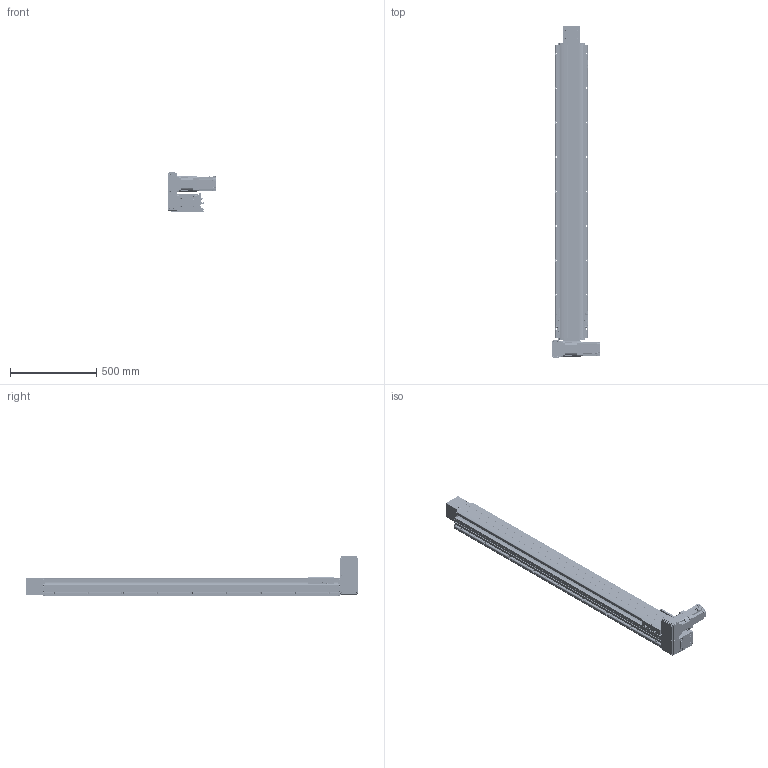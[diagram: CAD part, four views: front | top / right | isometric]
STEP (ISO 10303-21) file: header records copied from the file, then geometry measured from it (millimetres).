
FILE_DESCRIPTION(/* description */ (''),/* implementation_level */ '2;1');
FILE_NAME(/* name */ '\\192.168.0.160\disk1\HAN SHIN Master\B-설계부문\C-표준\B-2024년\BC02-표준도면\+로봇 개선표준도면\홈페이지 표준 도면\홈페이지 최종 작업 폴더\3D\HSB\HSB160\UL\HSB160-UL7G-N-1500-R.stp',/* time_stamp */ '2025-06-19T10:07:52+09:00',/* author */ ('user'),/* organization */ (''),/* preprocessor_version */ 'ST-DEVELOPER v18.1',/* originating_system */ 'Autodesk Inventor 2022',/* authorisation */ '');
FILE_SCHEMA (('AUTOMOTIVE_DESIGN { 1 0 10303 214 3 1 1 }'));
Products named in the file (42): HSB160-UL7G-N-0500-R; BASE; HSB160 TABLE (TEST); FORNT HOUSUNG-1 (Connecting); UPCOVER; HSB160 COVER-1; REAR HOUSUNG-1---; HSB160 REAR SHAFT-2; REAR SHAFT--2; 6004ZZ; 6004ZZ Outer ring; 6004ZZ Shield1; 6004ZZ Inner ring; 6004ZZ Ball; 6004ZZ Shield2; STOPPER3; TENSION PLATE; HSB160 ARC COVER; hsr_ftht_A-M6F_grease_nipple_joint; NIPPLE CAP(신규); SIDE COVER; hg-kr73_; PGX90-H-1_3; HSB160 BEARING OVER; HSB160 END COVER; HSB160 SHAFT-1; 6206ZZ; 6206ZZ Outer ring; 6206ZZ Shield1; 6206ZZ Inner ring; 6206ZZ Ball; 6206ZZ Shield2; HR120 SENSOR DOG; SENSOR BRK(EE-SX674A); EE_SX674A; U MOTOR PLATE ASSY; HSB160 U MOTOR PLATE; 750W MOTOR PLATE; HR160 400W LR BELT COVER; HR180 ACRYL COVER - 1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
Assembly tree (87 placements, depth 3):
  HSB160-UL7G-N-0500-R
    BASE
    HSB160 TABLE (TEST)
    FORNT HOUSUNG-1 (Connecting)
    UPCOVER
    HSB160 COVER-1  x2
    REAR HOUSUNG-1---
    6004ZZ  x2
      6004ZZ Outer ring
      6004ZZ Shield1
      6004ZZ Inner ring
      6004ZZ Ball
      6004ZZ Shield2
    HSB160 REAR SHAFT-2
    REAR SHAFT--2
    TENSION PLATE  x2
    HSB160 ARC COVER  x4
    STOPPER3  x4
    SIDE COVER  x2
    hsr_ftht_A-M6F_grease_nipple_joint  x4
    NIPPLE CAP(신규)  x4
    hg-kr73_
    PGX90-H-1_3
    HSB160 BEARING OVER
    HSB160 END COVER
    6206ZZ  x2
      6206ZZ Outer ring
      6206ZZ Shield1
      6206ZZ Inner ring
      6206ZZ Ball
      6206ZZ Shield2
    HSB160 SHAFT-1
    HR120 SENSOR DOG
    SENSOR BRK(EE-SX674A)  x3
    EE_SX674A  x3
    U MOTOR PLATE ASSY
      HSB160 U MOTOR PLATE
      750W MOTOR PLATE
      HR160 400W LR BELT COVER
      HR180 ACRYL COVER - 1_2  x2
      HR180 ACRYL COVER - 1
      HR180 ACRYL COVER - 1_1
Bounding box: 284.5 x 1928.5 x 230.5 mm (x, y, z)
Volume: 12155470.2 mm3; surface area: 3101184.6 mm2
Topology: 131 solids, 133 shells, 6490 faces, 17807 edges, 11708 vertices
Faces by surface type: plane 4536, cylinder 1405, cone 377, sphere 88, torus 59, bspline 25
Full cylindrical faces by diameter (mm): 2.013 x2, 2.459 x54, 3 x20, 3.242 x50, 3.4 x22, 3.5 x6, 4.134 x18, 4.2 x4, 4.5 x40, 4.917 x76, 5 x44, 5.1 x1, 5.5 x25, 5.6 x4, 5.9 x4, 6 x21, 6.5 x9, 6.6 x18, 6.8 x9, 7 x32, 7.6 x4, 8 x5, 8.376 x18, 8.433 x2, 9 x4, 9.5 x31, 10 x5, 11 x28, 15 x8, 18.5 x2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
Entity records: 118368 total; most frequent: CARTESIAN_POINT 22433, DIRECTION 19674, ORIENTED_EDGE 19078, EDGE_CURVE 9539, AXIS2_PLACEMENT_3D 6684, VERTEX_POINT 6309, LINE 6306, VECTOR 6306
